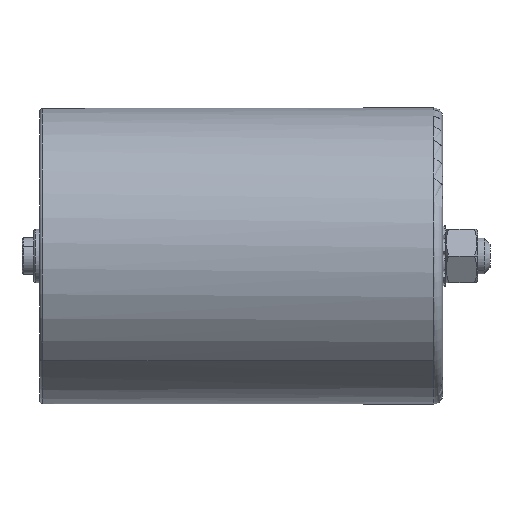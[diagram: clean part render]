
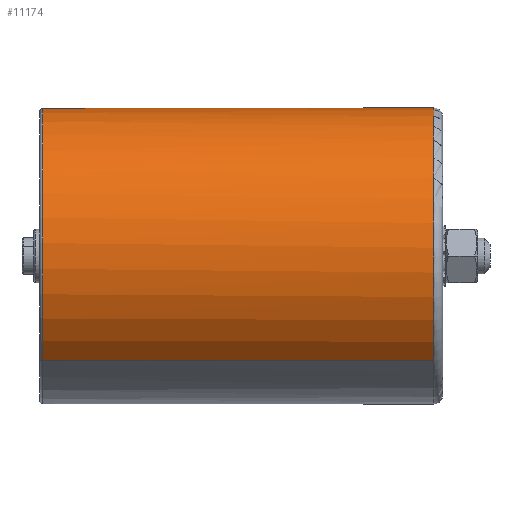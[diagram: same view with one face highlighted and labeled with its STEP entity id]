
A CAD part, left-side view. The second image highlights one B-rep face of the part: STEP entity #11174.
In plain terms, the highlighted cylindrical face has radius 50 mm (diameter 100 mm), a partial arc.
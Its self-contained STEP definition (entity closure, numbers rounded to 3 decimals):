
#48 = VERTEX_POINT ( 'NONE', #4053 ) ;
#122 = LINE ( 'NONE', #3965, #5062 ) ;
#266 = CARTESIAN_POINT ( 'NONE',  ( -35.355, 3., -35.355 ) ) ;
#300 = DIRECTION ( 'NONE',  ( 0.707, 0., 0.707 ) ) ;
#353 = DIRECTION ( 'NONE',  ( 0., 0., 1. ) ) ;
#966 = ORIENTED_EDGE ( 'NONE', *, *, #6729, .F. ) ;
#1317 = CARTESIAN_POINT ( 'NONE',  ( 0., 135., 0. ) ) ;
#1587 = EDGE_LOOP ( 'NONE', ( #966, #7126, #12068, #10494, #8852 ) ) ;
#1797 = AXIS2_PLACEMENT_3D ( 'NONE', #1317, #5218, #5157 ) ;
#2130 = DIRECTION ( 'NONE',  ( 0., 1., 0. ) ) ;
#3471 = DIRECTION ( 'NONE',  ( 0., 1., 0. ) ) ;
#3964 = VERTEX_POINT ( 'NONE', #7258 ) ;
#3965 = CARTESIAN_POINT ( 'NONE',  ( -35.355, 126., -35.355 ) ) ;
#4015 = CARTESIAN_POINT ( 'NONE',  ( 0., 3., 0. ) ) ;
#4042 = VERTEX_POINT ( 'NONE', #8317 ) ;
#4053 = CARTESIAN_POINT ( 'NONE',  ( -35.355, 135., -35.355 ) ) ;
#4794 = VERTEX_POINT ( 'NONE', #6003 ) ;
#5030 = CYLINDRICAL_SURFACE ( 'NONE', #8797, 50. ) ;
#5062 = VECTOR ( 'NONE', #2130, 1000. ) ;
#5074 = AXIS2_PLACEMENT_3D ( 'NONE', #4015, #7848, #353 ) ;
#5157 = DIRECTION ( 'NONE',  ( -0.707, 0., -0.707 ) ) ;
#5218 = DIRECTION ( 'NONE',  ( 0., -1., 0. ) ) ;
#5609 = VECTOR ( 'NONE', #3471, 1000. ) ;
#5781 = EDGE_CURVE ( 'NONE', #4794, #3964, #12056, .T. ) ;
#6003 = CARTESIAN_POINT ( 'NONE',  ( 35.355, 3., 35.355 ) ) ;
#6219 = DIRECTION ( 'NONE',  ( 0., 0., 1. ) ) ;
#6729 = EDGE_CURVE ( 'NONE', #9321, #48, #122, .T. ) ;
#6828 = CIRCLE ( 'NONE', #1797, 50. ) ;
#7126 = ORIENTED_EDGE ( 'NONE', *, *, #12097, .T. ) ;
#7143 = EDGE_CURVE ( 'NONE', #4042, #4794, #7682, .T. ) ;
#7162 = CARTESIAN_POINT ( 'NONE',  ( 0., 3., 0. ) ) ;
#7258 = CARTESIAN_POINT ( 'NONE',  ( 35.355, 135., 35.355 ) ) ;
#7682 = CIRCLE ( 'NONE', #5074, 50. ) ;
#7848 = DIRECTION ( 'NONE',  ( 0., 1., 0. ) ) ;
#8317 = CARTESIAN_POINT ( 'NONE',  ( 0., 3., 50. ) ) ;
#8797 = AXIS2_PLACEMENT_3D ( 'NONE', #9916, #10856, #300 ) ;
#8852 = ORIENTED_EDGE ( 'NONE', *, *, #12053, .T. ) ;
#8932 = FACE_OUTER_BOUND ( 'NONE', #1587, .T. ) ;
#9024 = CARTESIAN_POINT ( 'NONE',  ( 35.355, 126., 35.355 ) ) ;
#9055 = DIRECTION ( 'NONE',  ( 0., 1., 0. ) ) ;
#9321 = VERTEX_POINT ( 'NONE', #266 ) ;
#9428 = AXIS2_PLACEMENT_3D ( 'NONE', #7162, #9055, #6219 ) ;
#9916 = CARTESIAN_POINT ( 'NONE',  ( 0., 126., 0. ) ) ;
#10421 = CIRCLE ( 'NONE', #9428, 50. ) ;
#10494 = ORIENTED_EDGE ( 'NONE', *, *, #5781, .T. ) ;
#10856 = DIRECTION ( 'NONE',  ( 0., 1., 0. ) ) ;
#11174 = ADVANCED_FACE ( 'NONE', ( #8932 ), #5030, .T. ) ;
#12053 = EDGE_CURVE ( 'NONE', #3964, #48, #6828, .T. ) ;
#12056 = LINE ( 'NONE', #9024, #5609 ) ;
#12068 = ORIENTED_EDGE ( 'NONE', *, *, #7143, .T. ) ;
#12097 = EDGE_CURVE ( 'NONE', #9321, #4042, #10421, .T. ) ;
